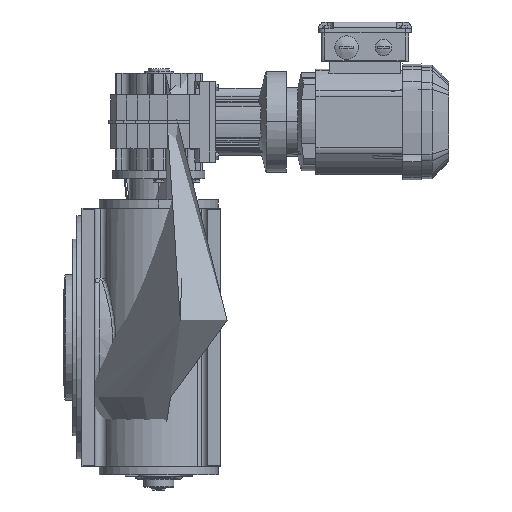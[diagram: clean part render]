
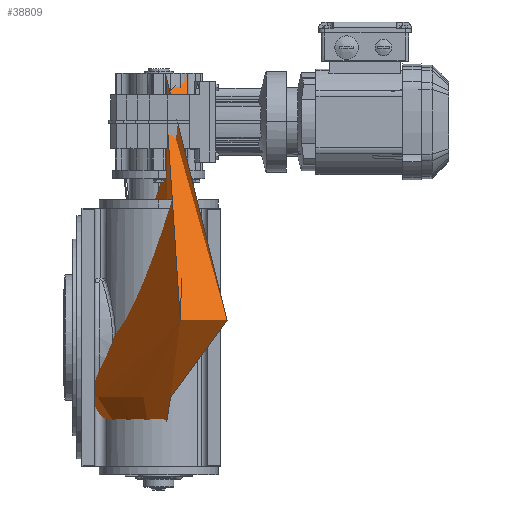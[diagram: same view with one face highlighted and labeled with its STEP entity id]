
A CAD part, left-side view. The second image highlights one B-rep face of the part: STEP entity #38809.
In plain terms, the highlighted conical face has half-angle 40 degrees and reference radius 16.218 mm.
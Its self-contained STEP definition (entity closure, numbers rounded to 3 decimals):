
#747 = DIRECTION ( 'NONE',  ( 0., 0., 1. ) ) ;
#1738 = VECTOR ( 'NONE', #79972, 1000. ) ;
#4012 = CARTESIAN_POINT ( 'NONE',  ( -138.957, 66., 315. ) ) ;
#4902 = VERTEX_POINT ( 'NONE', #4012 ) ;
#6267 = LINE ( 'NONE', #46563, #1738 ) ;
#6766 = DIRECTION ( 'NONE',  ( 0.986, 0.169, 0. ) ) ;
#7146 = DIRECTION ( 'NONE',  ( 0., 0., 1. ) ) ;
#9747 = AXIS2_PLACEMENT_3D ( 'NONE', #66850, #7146, #6766 ) ;
#12978 = ORIENTED_EDGE ( 'NONE', *, *, #63244, .F. ) ;
#19953 = VERTEX_POINT ( 'NONE', #50214 ) ;
#22153 = CARTESIAN_POINT ( 'NONE',  ( -108.859, 39.145, 315. ) ) ;
#25949 = VERTEX_POINT ( 'NONE', #80501 ) ;
#26591 = CARTESIAN_POINT ( 'NONE',  ( -95., 74., -163.644 ) ) ;
#31590 = CARTESIAN_POINT ( 'NONE',  ( -138.957, 66., 199. ) ) ;
#35253 = LINE ( 'NONE', #22153, #68494 ) ;
#36541 = DIRECTION ( 'NONE',  ( 0., 0., 1. ) ) ;
#38809 = ADVANCED_FACE ( 'NONE', ( #59810 ), #71480, .T. ) ;
#39589 = CIRCLE ( 'NONE', #46617, 16.218 ) ;
#41109 = VERTEX_POINT ( 'NONE', #50110 ) ;
#41525 = EDGE_CURVE ( 'NONE', #55213, #85656, #39589, .T. ) ;
#42599 = ORIENTED_EDGE ( 'NONE', *, *, #43180, .T. ) ;
#43180 = EDGE_CURVE ( 'NONE', #25949, #85656, #6267, .T. ) ;
#46563 = CARTESIAN_POINT ( 'NONE',  ( -110.984, 71.256, -163.644 ) ) ;
#46617 = AXIS2_PLACEMENT_3D ( 'NONE', #26591, #747, #59084 ) ;
#49679 = CARTESIAN_POINT ( 'NONE',  ( -79.016, 76.744, -163.644 ) ) ;
#50110 = CARTESIAN_POINT ( 'NONE',  ( -138.957, 66., 289. ) ) ;
#50214 = CARTESIAN_POINT ( 'NONE',  ( -108.859, 39.145, 315. ) ) ;
#55213 = VERTEX_POINT ( 'NONE', #49679 ) ;
#56583 = ORIENTED_EDGE ( 'NONE', *, *, #41525, .F. ) ;
#57058 = DIRECTION ( 'NONE',  ( 0., 0., 1. ) ) ;
#58428 = VECTOR ( 'NONE', #57058, 1000. ) ;
#59084 = DIRECTION ( 'NONE',  ( 0.986, 0.169, 0. ) ) ;
#59810 = FACE_OUTER_BOUND ( 'NONE', #62794, .T. ) ;
#61508 = ORIENTED_EDGE ( 'NONE', *, *, #69390, .T. ) ;
#62794 = EDGE_LOOP ( 'NONE', ( #77160, #42599, #56583, #12978 ) ) ;
#63244 = ORIENTED_EDGE ( 'NONE', *, *, #76805, .T. ) ;
#66676 = CARTESIAN_POINT ( 'NONE',  ( -110.984, 71.256, -163.644 ) ) ;
#66850 = CARTESIAN_POINT ( 'NONE',  ( -95., 74., -163.644 ) ) ;
#67196 = VERTEX_POINT ( 'NONE', #83327 ) ;
#68494 = VECTOR ( 'NONE', #36541, 1000. ) ;
#69390 = EDGE_CURVE ( 'NONE', #67196, #19953, #35253, .T. ) ;
#71480 = CONICAL_SURFACE ( 'NONE', #9747, 16.218, 0.698 ) ;
#76805 = EDGE_CURVE ( 'NONE', #41109, #4902, #85156, .T. ) ;
#77160 = ORIENTED_EDGE ( 'NONE', *, *, #61508, .T. ) ;
#79972 = DIRECTION ( 'NONE',  ( -0.634, -0.109, 0.766 ) ) ;
#80501 = CARTESIAN_POINT ( 'NONE',  ( -110.69, 71.307, -164. ) ) ;
#83327 = CARTESIAN_POINT ( 'NONE',  ( -108.859, 39.145, 289. ) ) ;
#85156 = LINE ( 'NONE', #31590, #58428 ) ;
#85656 = VERTEX_POINT ( 'NONE', #66676 ) ;
